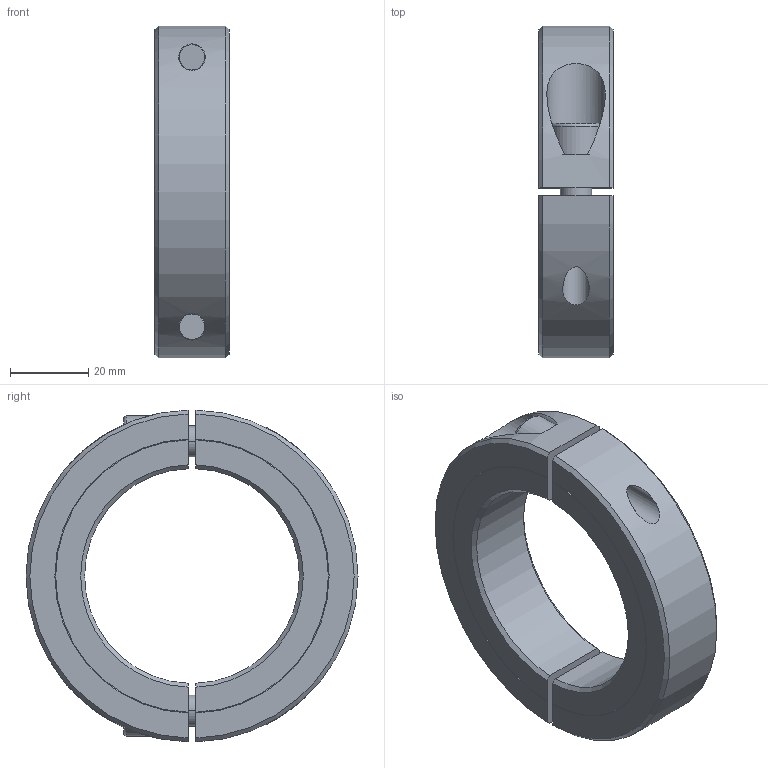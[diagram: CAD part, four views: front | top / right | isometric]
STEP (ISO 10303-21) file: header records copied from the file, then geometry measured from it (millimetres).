
FILE_DESCRIPTION((''),'2;1');
FILE_NAME('131-000-0055_ASM','2013-12-20T',('Brieden'),('brieden'),'PRO/ENGINEER BY PARAMETRIC TECHNOLOGY CORPORATION, 2005030','PRO/ENGINEER BY PARAMETRIC TECHNOLOGY CORPORATION, 2005030','');
FILE_SCHEMA(('AUTOMOTIVE_DESIGN_CC2 { 1 2 10303 214 -1 1 5 2 }'));
Length unit declared in the file: millimetre
Products named in the file (4): 131-000-0055-DB_PRT; 131-000-0055-TH_PRT; D912-M8X25_PRT; 131-000-0055_ASM
Assembly tree (4 placements, depth 2):
  131-000-0055_ASM
    131-000-0055-DB_PRT
    131-000-0055-TH_PRT
    D912-M8X25_PRT  x2
Bounding box: 19 x 85 x 84.98 mm (x, y, z)
Volume: 57712.3 mm3; surface area: 19834.9 mm2
Topology: 4 solids, 4 shells, 94 faces, 214 edges, 136 vertices
Faces by surface type: plane 34, cylinder 26, cone 20, torus 14
Entity records: 2324 total; most frequent: CARTESIAN_POINT 623, DIRECTION 348, ORIENTED_EDGE 312, EDGE_CURVE 156, AXIS2_PLACEMENT_3D 143, VERTEX_POINT 100, EDGE_LOOP 80, CIRCLE 68
